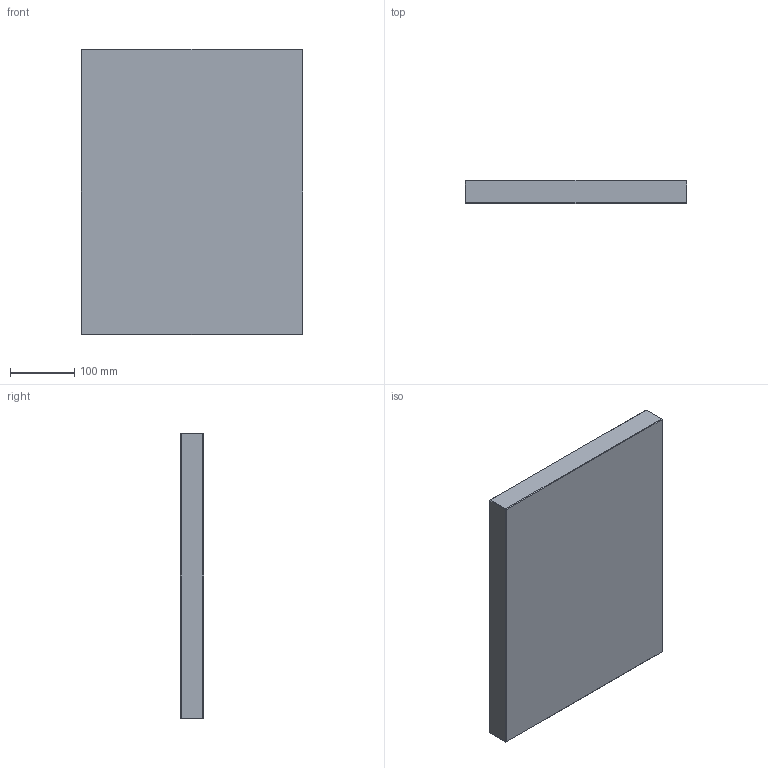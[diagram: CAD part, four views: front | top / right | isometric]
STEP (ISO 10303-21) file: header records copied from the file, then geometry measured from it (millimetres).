
FILE_DESCRIPTION (( 'STEP AP214' ), '1' );
FILE_NAME ('PBAV-P-346x346x36.STEP', '2020-03-25T16:36:06', ( 'August' ), ( '' ), 'SwSTEP 2.0', 'SolidWorks 2018', '' );
FILE_SCHEMA (( 'AUTOMOTIVE_DESIGN' ));
Length unit declared in the file: millimetre
Products named in the file (1): PBAV-P-346x346x36
Bounding box: 346 x 36 x 446 mm (x, y, z)
Volume: 5553725.3 mm3; surface area: 363712.9 mm2
Topology: 1 solids, 1 shells, 26 faces, 48 edges, 24 vertices
Faces by surface type: plane 26
Entity records: 634 total; most frequent: DIRECTION 102, CARTESIAN_POINT 99, ORIENTED_EDGE 96, VECTOR 48, EDGE_CURVE 48, LINE 48, AXIS2_PLACEMENT_3D 27, FACE_OUTER_BOUND 26
